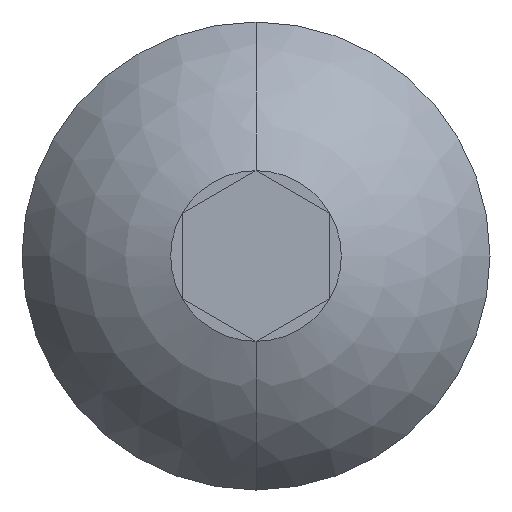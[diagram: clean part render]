
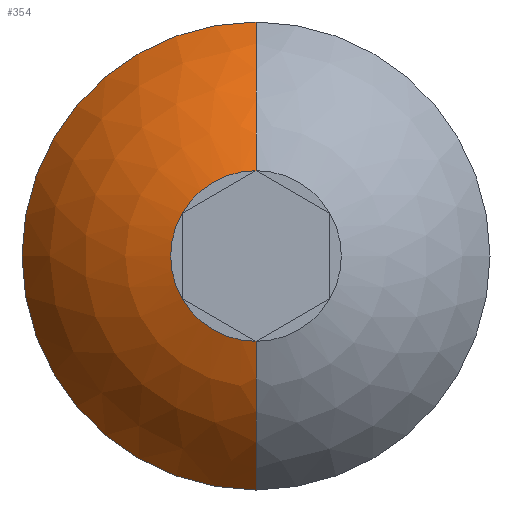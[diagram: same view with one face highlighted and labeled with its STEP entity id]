
A CAD part, front view. The second image highlights one B-rep face of the part: STEP entity #354.
In plain terms, the highlighted spherical face has radius 5.396 mm.
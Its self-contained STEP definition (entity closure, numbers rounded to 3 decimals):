
#57=CARTESIAN_POINT('',(0.,-0.2,0.));
#58=DIRECTION('',(0.,-1.,0.));
#59=DIRECTION('',(-1.,0.,0.));
#60=AXIS2_PLACEMENT_3D('',#57,#58,#59);
#62=CARTESIAN_POINT('',(0.,-0.2,0.));
#63=DIRECTION('',(0.,-1.,0.));
#64=DIRECTION('',(0.,0.,1.));
#65=AXIS2_PLACEMENT_3D('',#62,#63,#64);
#67=CARTESIAN_POINT('',(0.,-2.75,0.));
#68=DIRECTION('',(0.,-1.,0.));
#69=DIRECTION('',(0.,0.,1.));
#70=AXIS2_PLACEMENT_3D('',#67,#68,#69);
#76=CARTESIAN_POINT('',(0.,-2.75,0.));
#77=DIRECTION('',(0.,-1.,0.));
#78=DIRECTION('',(-0.866,0.,0.5));
#79=AXIS2_PLACEMENT_3D('',#76,#77,#78);
#85=CARTESIAN_POINT('',(0.,-2.75,0.));
#86=DIRECTION('',(0.,-1.,0.));
#87=DIRECTION('',(-0.866,0.,-0.5));
#88=AXIS2_PLACEMENT_3D('',#85,#86,#87);
#169=CARTESIAN_POINT('',(0.,2.361,0.));
#170=DIRECTION('',(-1.,0.,0.));
#171=DIRECTION('',(0.,-0.947,0.321));
#172=AXIS2_PLACEMENT_3D('',#169,#170,#171);
#184=CARTESIAN_POINT('',(0.,2.361,0.));
#185=DIRECTION('',(1.,0.,0.));
#186=DIRECTION('',(0.,-0.947,-0.321));
#187=AXIS2_PLACEMENT_3D('',#184,#185,#186);
#221=CARTESIAN_POINT('',(0.,-2.75,1.732));
#222=VERTEX_POINT('',#221);
#223=CARTESIAN_POINT('',(-1.5,-2.75,0.866));
#224=VERTEX_POINT('',#223);
#225=CARTESIAN_POINT('',(-1.5,-2.75,-0.866));
#226=VERTEX_POINT('',#225);
#227=CARTESIAN_POINT('',(0.,-2.75,-1.732));
#228=VERTEX_POINT('',#227);
#237=CARTESIAN_POINT('',(0.,-0.2,4.75));
#238=CARTESIAN_POINT('',(-4.75,-0.2,0.));
#239=VERTEX_POINT('',#237);
#240=VERTEX_POINT('',#238);
#243=CARTESIAN_POINT('',(0.,-0.2,-4.75));
#244=VERTEX_POINT('',#243);
#334=CARTESIAN_POINT('',(0.,2.361,0.));
#335=DIRECTION('',(0.,-1.,0.));
#336=DIRECTION('',(0.,0.,1.));
#337=AXIS2_PLACEMENT_3D('',#334,#335,#336);
#338=SPHERICAL_SURFACE('',#337,5.396);
#340=ORIENTED_EDGE('',*,*,#339,.T.);
#342=ORIENTED_EDGE('',*,*,#341,.T.);
#344=ORIENTED_EDGE('',*,*,#343,.T.);
#346=ORIENTED_EDGE('',*,*,#345,.T.);
#348=ORIENTED_EDGE('',*,*,#347,.F.);
#349=ORIENTED_EDGE('',*,*,#322,.F.);
#351=ORIENTED_EDGE('',*,*,#350,.F.);
#352=EDGE_LOOP('',(#340,#342,#344,#346,#348,#349,#351));
#353=FACE_OUTER_BOUND('',#352,.F.);
#354=ADVANCED_FACE('',(#353),#338,.T.);
#61=CIRCLE('',#60,4.75);
#66=CIRCLE('',#65,4.75);
#71=CIRCLE('',#70,1.732);
#80=CIRCLE('',#79,1.732);
#89=CIRCLE('',#88,1.732);
#173=CIRCLE('',#172,5.396);
#188=CIRCLE('',#187,5.396);
#322=EDGE_CURVE('',#239,#240,#66,.T.);
#339=EDGE_CURVE('',#222,#224,#71,.T.);
#341=EDGE_CURVE('',#224,#226,#80,.T.);
#343=EDGE_CURVE('',#226,#228,#89,.T.);
#345=EDGE_CURVE('',#228,#244,#188,.T.);
#347=EDGE_CURVE('',#240,#244,#61,.T.);
#350=EDGE_CURVE('',#222,#239,#173,.T.);
